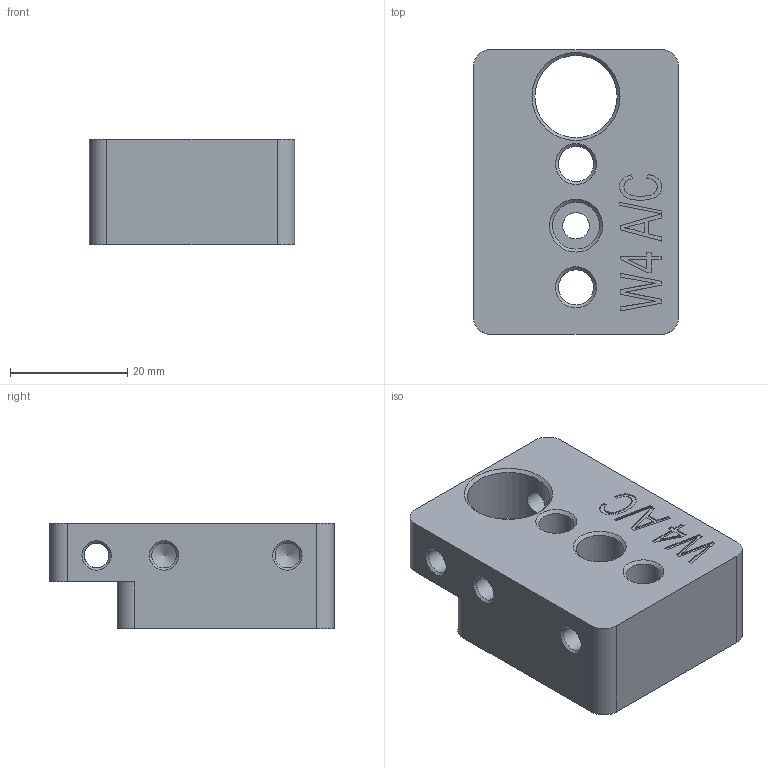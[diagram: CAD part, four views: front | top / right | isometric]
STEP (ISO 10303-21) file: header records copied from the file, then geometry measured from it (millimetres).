
FILE_DESCRIPTION(/* description */ (''),/* implementation_level */ '2;1');
FILE_NAME(/* name */ 'WHEELS-INSERT.16.stp',/* time_stamp */ '2018-05-25T14:23:26+02:00',/* author */ (''),/* organization */ (''),/* preprocessor_version */ 'ST-DEVELOPER v16.7',/* originating_system */ 'SIEMENS PLM Software NX 12.0',/* authorisation */ '');
FILE_SCHEMA (('AP203_CONFIGURATION_CONTROLLED_3D_DESIGN_OF_MECHANICAL_PARTS_AND_ASSEMBLIES_MIM_LF { 1 0 10303 403 2 1 2}'));
Length unit declared in the file: millimetre
Products named in the file (1): turc66A81BAD9zf4
Bounding box: 35 x 48.5 x 18 mm (x, y, z)
Volume: 22830 mm3; surface area: 8001.1 mm2
Topology: 1 solids, 1 shells, 98 faces, 258 edges, 169 vertices
Faces by surface type: plane 53, cone 18, cylinder 17, extrusion 10
Full cylindrical faces by diameter (mm): 4.2 x6, 4.5 x1, 6 x2, 8 x1, 14 x1
Entity records: 3272 total; most frequent: CARTESIAN_POINT 1058, ORIENTED_EDGE 434, DIRECTION 356, EDGE_CURVE 217, VERTEX_POINT 160, EDGE_LOOP 145, AXIS2_PLACEMENT_3D 136, B_SPLINE_CURVE_WITH_KNOTS 106
